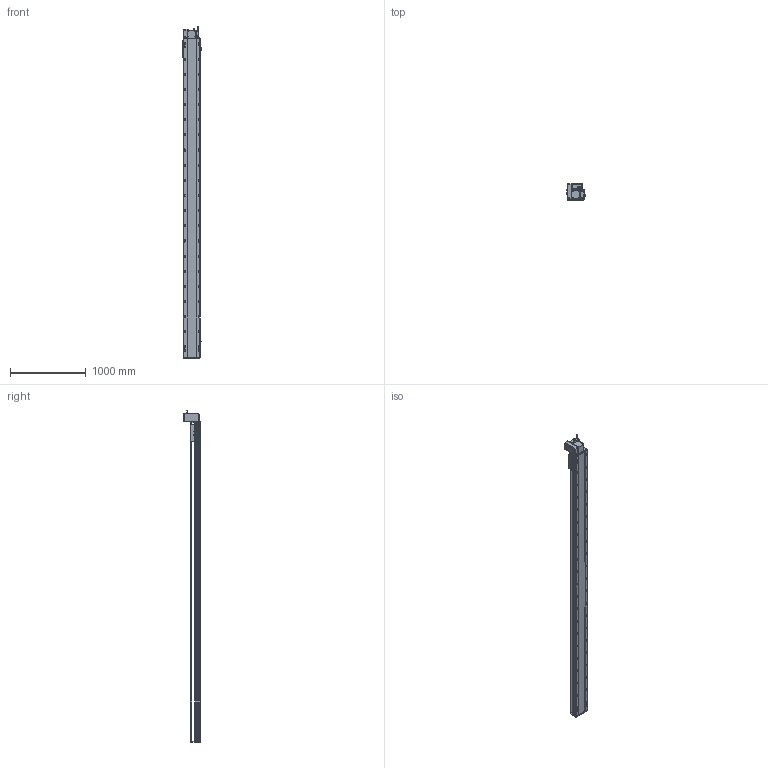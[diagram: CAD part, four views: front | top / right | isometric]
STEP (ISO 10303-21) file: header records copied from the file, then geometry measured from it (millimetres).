
FILE_DESCRIPTION (( 'STEP AP214' ), '1' );
FILE_NAME ('RTB22S-XX-3850-LW-M75-C4.STEP', '2025-12-12T07:10:16', ( '' ), ( '' ), 'SwSTEP 2.0', 'SolidWorks 2018', '' );
FILE_SCHEMA (( 'AUTOMOTIVE_DESIGN' ));
Length unit declared in the file: millimetre
Products named in the file (14): RTH22-GY-013外置感应片^RTB22S-XX-XX-LW-M75-C4; RTB22S-GY-005P^RTB22S-LW-々湍釱蚾饜_RTB22S-XX-XX-LW-M75-C4; RTB22S-GY-001耜裔^RTB22S-XX-XX-LW-M75-C4; OMRON EE-SX672 传感器^RTB22S-XX-XX-LW-M75-C4; RTB22S-XX-3850-LW-M75-C4; RTB22S-L-004賑釱^RTB22S-XX-XX-LW-M75-C4; 750W萇儂^RTB22S-XX-XX-LW-M75-C4; RTB22S-GY-014--々湍釱^RTB22S-LW-々湍釱蚾饜_RTB22S-XX-XX-LW-M75-C4; RTB22S-GY-008-M75--萇儂啣^RTB22S-LW-々湍釱蚾饜_RTB22S-XX-XX-LW-M75-C4; RTB22S-GY-007奻裔^RTB22S-XX-XX-LW-M75-C4; RTB22S-LW-々湍釱蚾饜^RTB22S-XX-XX-LW-M75-C4; RTB22S-GY-018P^RTB22S-LW-々湍釱蚾饜_RTB22S-XX-XX-LW-M75-C4; RTB22S-L-011菁釱^RTB22S-XX-XX-LW-M75-C4; RTB22S-GY-017P^RTB22S-LW-々湍釱蚾饜_RTB22S-XX-XX-LW-M75-C4
Assembly tree (16 placements, depth 3):
  RTB22S-XX-3850-LW-M75-C4
    RTB22S-L-011菁釱^RTB22S-XX-XX-LW-M75-C4
    RTB22S-GY-001耜裔^RTB22S-XX-XX-LW-M75-C4
    750W萇儂^RTB22S-XX-XX-LW-M75-C4
    RTB22S-GY-007奻裔^RTB22S-XX-XX-LW-M75-C4
    RTB22S-L-004賑釱^RTB22S-XX-XX-LW-M75-C4
    RTH22-GY-013外置感应片^RTB22S-XX-XX-LW-M75-C4
    OMRON EE-SX672 传感器^RTB22S-XX-XX-LW-M75-C4  x3
    RTB22S-LW-々湍釱蚾饜^RTB22S-XX-XX-LW-M75-C4
      RTB22S-GY-014--々湍釱^RTB22S-LW-々湍釱蚾饜_RTB22S-XX-XX-LW-M75-C4
      RTB22S-GY-017P^RTB22S-LW-々湍釱蚾饜_RTB22S-XX-XX-LW-M75-C4  x2
      RTB22S-GY-005P^RTB22S-LW-々湍釱蚾饜_RTB22S-XX-XX-LW-M75-C4
      RTB22S-GY-008-M75--萇儂啣^RTB22S-LW-々湍釱蚾饜_RTB22S-XX-XX-LW-M75-C4
      RTB22S-GY-018P^RTB22S-LW-々湍釱蚾饜_RTB22S-XX-XX-LW-M75-C4
Bounding box: 238.5 x 215.5 x 4382.2 mm (x, y, z)
Volume: 54487344.1 mm3; surface area: 5537901.8 mm2
Topology: 15 solids, 15 shells, 2235 faces, 6086 edges, 3872 vertices
Faces by surface type: plane 943, cylinder 790, bspline 296, cone 194, sphere 8, torus 4
Entity records: 61980 total; most frequent: CARTESIAN_POINT 17244, ORIENTED_EDGE 8848, DIRECTION 8758, EDGE_CURVE 4424, AXIS2_PLACEMENT_3D 3182, VERTEX_POINT 2876, LINE 2394, VECTOR 2394
